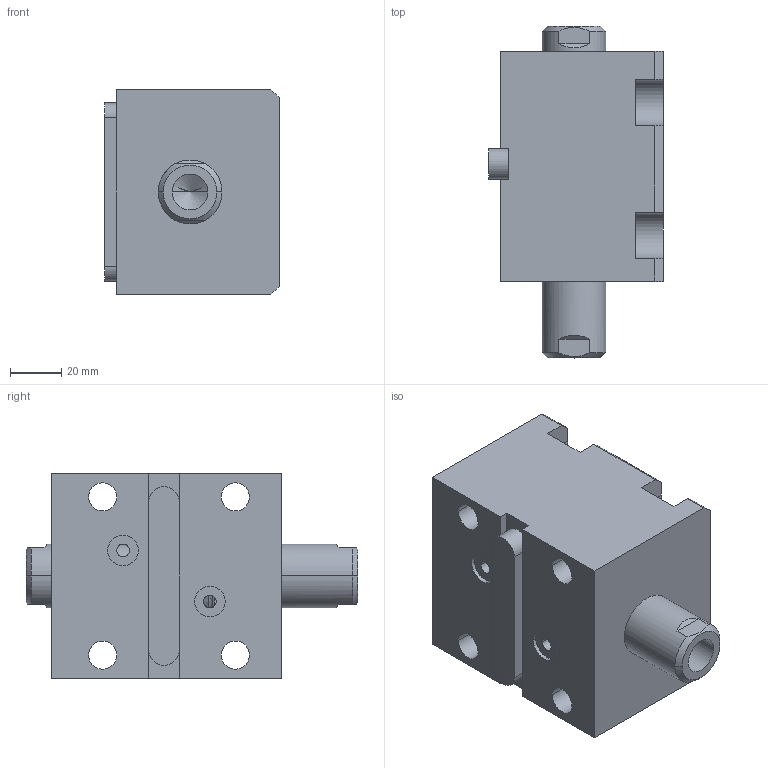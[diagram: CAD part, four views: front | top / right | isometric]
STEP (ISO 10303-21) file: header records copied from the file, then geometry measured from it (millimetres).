
FILE_DESCRIPTION (( 'STEP AP214' ), '1' );
FILE_NAME ('chtb-lwm40x20n_asm.STEP', '2018-05-30T07:58:01', ( 'Windows' ), ( 'Microsoft' ), 'SwSTEP 2.0', 'SolidWorks 2015', '' );
FILE_SCHEMA (( 'AUTOMOTIVE_DESIGN' ));
Length unit declared in the file: millimetre
Products named in the file (5): CHTB-SW40X20NHSG; CHTB-SD40QG; CHTB-LWM40X20NBT; CHTB-LA40PJ; chtb-lwm40x20n_asm
Assembly tree (4 placements, depth 2):
  chtb-lwm40x20n_asm
    CHTB-LA40PJ
    CHTB-LWM40X20NBT
    CHTB-SD40QG
    CHTB-SW40X20NHSG
Bounding box: 68.5 x 130 x 80 mm (x, y, z)
Volume: 424176 mm3; surface area: 83011.9 mm2
Topology: 4 solids, 4 shells, 166 faces, 450 edges, 296 vertices
Faces by surface type: cylinder 77, plane 50, bspline 14, cone 13, torus 12
Entity records: 10488 total; most frequent: CARTESIAN_POINT 6156, ORIENTED_EDGE 880, DIRECTION 821, EDGE_CURVE 440, AXIS2_PLACEMENT_3D 326, VERTEX_POINT 296, EDGE_LOOP 196, LINE 169
